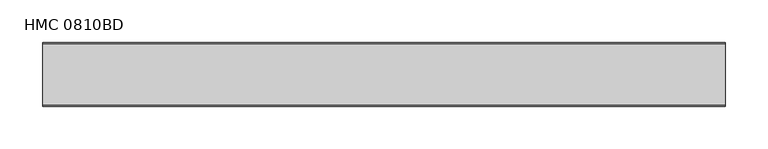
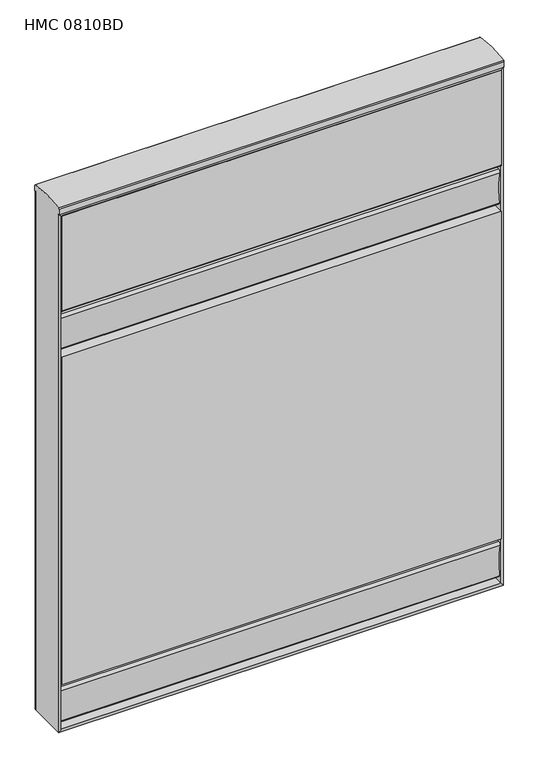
"""IFC4 building model written with IfcOpenShell, lengths in millimetres: furniture geometry, Mobiliário_MobiliáriodeEscritório_LinhaHabitat_PainelHabitatCego-MelaminaBasculante2Lado_Marelli : HMC 0810BD."""

from ifc_helpers import new_model, si_unit, point, frame, frame_2d, origin, place, context, project, spatial, polyline, circle_curve, ellipse_curve, trimmed, segment, composite_curve, outline, extrude, source, transform, mapped, element, save
from ifc_brep_helpers import plane_surface, cylinder_surface, advanced_brep


def hmc_0810bd_d5e68017(model_context):
    return source(origin(), model_context, "Body", "SolidModel", [
        extrude(outline(composite_curve([segment(polyline([(55.0, 90.0), (55.0, 80.0), (65.980067, 80.0)]), True, "CONTINUOUS"), segment(trimmed(circle_curve(frame_2d((65.980067, 75.980067)), 4.019933), [point((65.980067, 80.0))], [point((69.831007, 74.8267575))], False, "CARTESIAN"), True, "CONTINUOUS"), segment(trimmed(circle_curve(frame_2d((200.7096213, 43.9493843)), 134.4716471), [point((69.831007, 74.8267575))], [point((68.9861321, 16.9022723))], True, "CARTESIAN"), True, "CONTINUOUS"), segment(trimmed(circle_curve(frame_2d((67.0270055, 16.5)), 2.0), [point((68.9861321, 16.9022723))], [point((67.0270055, 14.5))], False, "CARTESIAN"), True, "CONTINUOUS"), segment(polyline([(67.0270055, 14.5), (55.0, 14.5), (55.0, 4.5), (20.0, 4.5), (20.0, 14.5), (7.9729945, 14.5)]), True, "CONTINUOUS"), segment(trimmed(circle_curve(frame_2d((7.9729945, 16.5)), 2.0), [point((7.9729945, 14.5))], [point((6.0138679, 16.9022723))], False, "CARTESIAN"), True, "CONTINUOUS"), segment(trimmed(circle_curve(frame_2d((-125.7096213, 43.9493843)), 134.4716471), [point((6.0138679, 16.9022723))], [point((5.168993, 74.8267575))], True, "CARTESIAN"), True, "CONTINUOUS"), segment(trimmed(circle_curve(frame_2d((9.019933, 75.980067)), 4.019933), [point((5.168993, 74.8267575))], [point((9.019933, 80.0))], False, "CARTESIAN"), True, "CONTINUOUS"), segment(polyline([(9.019933, 80.0), (20.0, 80.0), (20.0, 90.0), (55.0, 90.0)]), True, "CONTINUOUS")], self_intersect=False)), frame((4.5, 0.0, 0.0), z_axis=(1.0, 0.0, 0.0), x_axis=(0.0, 1.0, 0.0)), (0.0, 0.0, 1.0), 791.0),
        advanced_brep(
        [(0.0, 0.0, 984.4135569), (0.0, 0.0, 994.184829), (0.0, 1.4147018, 996.2946718), (0.0, 73.7415241, 996.2666026), (0.0, 75.0, 994.2721511), (0.0, 75.0, 984.4135569), (0.0, 72.75, 984.4135569), (0.0, 72.75, 0.0), (0.0, 2.25, 0.0), (0.0, 2.25, 984.4135569), (800.0, 75.0, 984.4135569), (800.0, 75.0, 994.2721511), (800.0, 73.7415241, 996.2666026), (800.0, 1.4147018, 996.2946718), (800.0, 0.0, 994.184829), (800.0, 0.0, 984.4135569), (800.0, 2.25, 984.4135569), (800.0, 2.25, 0.0), (800.0, 72.75, 0.0), (800.0, 72.75, 984.4135569), (4.5, 72.75, 4.5), (795.5, 72.75, 4.5), (795.5, 2.25, 4.5), (4.5, 2.25, 4.5), (795.5, 72.75, 979.9135569), (795.5, 2.25, 979.9135569), (4.5, 72.75, 979.9135569), (4.5, 2.25, 979.9135569)],
        [
            (0, 1),
            (1, 2, circle_curve(frame((0.0, 2.2806283, 994.184829), z_axis=(-1.0, 0.0, 0.0), x_axis=(0.0, 1.0, 0.0)), 2.2806283)),
            (2, 3, circle_curve(frame((0.0, 37.5106051, 822.3310283), z_axis=(-1.0, 0.0, 0.0), x_axis=(0.0, 1.0, 0.0)), 177.6689717)),
            (3, 4, circle_curve(frame((0.0, 72.7903437, 994.2721511), z_axis=(-1.0, 0.0, 0.0), x_axis=(0.0, 1.0, 0.0)), 2.2096563)),
            (4, 5),
            (5, 6),
            (6, 7),
            (7, 8),
            (8, 9),
            (9, 0),
            (10, 11),
            (11, 12, circle_curve(frame((800.0, 72.7903437, 994.2721511), z_axis=(1.0, 0.0, 0.0), x_axis=(0.0, 1.0, 0.0)), 2.2096563)),
            (12, 13, circle_curve(frame((800.0, 37.5106051, 822.3310283), z_axis=(1.0, 0.0, 0.0), x_axis=(0.0, 1.0, 0.0)), 177.6689717)),
            (13, 14, circle_curve(frame((800.0, 2.2806283, 994.184829), z_axis=(1.0, 0.0, 0.0), x_axis=(0.0, 1.0, 0.0)), 2.2806283)),
            (14, 15),
            (15, 16),
            (16, 17),
            (17, 18),
            (18, 19),
            (19, 10),
            (4, 11),
            (10, 5),
            (3, 12),
            (2, 13),
            (1, 14),
            (0, 15),
            (19, 6),
            (9, 16),
            (7, 20, ellipse_curve(frame((2.25, 72.75, 2.25), z_axis=(0.7071067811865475, 0.0, -0.7071067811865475), x_axis=(-0.7071067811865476, 0.0, -0.7071067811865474)), 3.1819805, 2.25)),
            (20, 21),
            (21, 18, ellipse_curve(frame((797.75, 72.75, 2.25), z_axis=(-0.7071067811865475, 0.0, -0.7071067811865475), x_axis=(-0.7071067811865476, 0.0, 0.7071067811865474)), 3.1819805, 2.25)),
            (18, 7),
            (17, 8),
            (17, 22, ellipse_curve(frame((797.75, 2.25, 2.25), z_axis=(-0.7071067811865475, 0.0, -0.7071067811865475), x_axis=(-0.7071067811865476, 0.0, 0.7071067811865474)), 3.1819805, 2.25)),
            (22, 23),
            (23, 8, ellipse_curve(frame((2.25, 2.25, 2.25), z_axis=(0.7071067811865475, 0.0, -0.7071067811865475), x_axis=(-0.7071067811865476, 0.0, -0.7071067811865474)), 3.1819805, 2.25)),
            (20, 23),
            (22, 21),
            (21, 24),
            (24, 19, ellipse_curve(frame((797.75, 72.75, 982.1635569), z_axis=(0.7071067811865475, 0.0, -0.7071067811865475), x_axis=(-0.7071067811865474, 0.0, -0.7071067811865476)), 3.1819805, 2.25)),
            (16, 25, ellipse_curve(frame((797.75, 2.25, 982.1635569), z_axis=(0.7071067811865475, 0.0, -0.7071067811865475), x_axis=(-0.7071067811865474, 0.0, -0.7071067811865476)), 3.1819805, 2.25)),
            (25, 22),
            (25, 24),
            (24, 26),
            (26, 6, ellipse_curve(frame((2.25, 72.75, 982.1635569), z_axis=(0.7071067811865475, 0.0, 0.7071067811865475), x_axis=(0.7071067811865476, 0.0, -0.7071067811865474)), 3.1819805, 2.25)),
            (9, 27, ellipse_curve(frame((2.25, 2.25, 982.1635569), z_axis=(0.7071067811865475, 0.0, 0.7071067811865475), x_axis=(0.7071067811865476, 0.0, -0.7071067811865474)), 3.1819805, 2.25)),
            (27, 25),
            (27, 26),
            (26, 20),
            (23, 27),
        ],
        [
            plane_surface(frame((0.0, 75.0, 994.2721511), z_axis=(-1.0, 0.0, 0.0), x_axis=(0.0, 0.0, -1.0))),
            plane_surface(frame((800.0, 75.0, 994.2721511), z_axis=(1.0, 0.0, 0.0), x_axis=(0.0, 0.0, 1.0))),
            plane_surface(frame((800.0, 75.0, 984.4135569), z_axis=(0.0, 1.0, 0.0), x_axis=(-1.0, 0.0, 0.0))),
            cylinder_surface(frame((0.0, 72.7903437, 994.2721511), z_axis=(1.0, 0.0, 0.0), x_axis=(0.0, 1.0, 0.0)), 2.2096563),
            cylinder_surface(frame((0.0, 37.5106051, 822.3310283), z_axis=(1.0, 0.0, 0.0), x_axis=(0.0, 1.0, 0.0)), 177.6689717),
            cylinder_surface(frame((0.0, 2.2806283, 994.184829), z_axis=(1.0, 0.0, 0.0), x_axis=(0.0, 1.0, 0.0)), 2.2806283),
            plane_surface(frame((800.0, 0.0, 994.184829), z_axis=(0.0, -1.0, 0.0), x_axis=(-1.0, 0.0, 0.0))),
            plane_surface(frame((800.0, 0.0, 984.4135569), z_axis=(0.0, 0.0, -1.0), x_axis=(-1.0, 0.0, 0.0))),
            cylinder_surface(frame((0.0, 72.75, 2.25), z_axis=(-1.0, 0.0, 0.0), x_axis=(0.0, -1.0, 0.0)), 2.25),
            plane_surface(frame((0.0, 72.75, 0.0), z_axis=(0.0, 0.0, -1.0), x_axis=(1.0, 0.0, 0.0))),
            cylinder_surface(frame((0.0, 2.25, 2.25), z_axis=(-1.0, 0.0, 0.0), x_axis=(0.0, -1.0, 0.0)), 2.25),
            plane_surface(frame((4.5, 2.25, 4.5), z_axis=(0.0, 0.0, 1.0), x_axis=(1.0, 0.0, 0.0))),
            cylinder_surface(frame((797.75, 72.75, 0.0), z_axis=(0.0, 0.0, -1.0), x_axis=(0.0, -1.0, 0.0)), 2.25),
            cylinder_surface(frame((797.75, 2.25, 0.0), z_axis=(0.0, 0.0, -1.0), x_axis=(0.0, -1.0, 0.0)), 2.25),
            plane_surface(frame((795.5, 2.25, 4.5), z_axis=(-1.0, 0.0, 0.0), x_axis=(0.0, 0.0, 1.0))),
            cylinder_surface(frame((800.0, 72.75, 982.1635569), z_axis=(1.0, 0.0, 0.0), x_axis=(0.0, -1.0, 0.0)), 2.25),
            cylinder_surface(frame((800.0, 2.25, 982.1635569), z_axis=(1.0, 0.0, 0.0), x_axis=(0.0, -1.0, 0.0)), 2.25),
            plane_surface(frame((795.5, 2.25, 979.9135569), z_axis=(0.0, 0.0, -1.0), x_axis=(-1.0, 0.0, 0.0))),
            cylinder_surface(frame((2.25, 72.75, 984.4135569), z_axis=(0.0, 0.0, 1.0), x_axis=(0.0, -1.0, 0.0)), 2.25),
            cylinder_surface(frame((2.25, 2.25, 984.4135569), z_axis=(0.0, 0.0, 1.0), x_axis=(0.0, -1.0, 0.0)), 2.25),
            plane_surface(frame((4.5, 2.25, 979.9135569), z_axis=(1.0, 0.0, 0.0), x_axis=(0.0, 0.0, -1.0))),
        ],
        [
            (0, [[1, 2, 3, 4, 5, 6, 7, 8, 9, 10]]),
            (1, [[11, 12, 13, 14, 15, 16, 17, 18, 19, 20]]),
            (2, [[-5, 21, -11, 22]]),
            (3, [[-4, 23, -12, -21]]),
            (4, [[-3, 24, -13, -23]]),
            (5, [[-2, 25, -14, -24]]),
            (6, [[-1, 26, -15, -25]]),
            (7, [[-22, -20, 27, -6]]),
            (7, [[-26, -10, 28, -16]]),
            (8, [[29, 30, 31, 32]]),
            (9, [[-32, -18, 33, -8]]),
            (10, [[-33, 34, 35, 36]]),
            (11, [[-30, 37, -35, 38]]),
            (12, [[-31, 39, 40, -19]]),
            (13, [[-34, -17, 41, 42]]),
            (14, [[-38, -42, 43, -39]]),
            (15, [[-40, 44, 45, -27]]),
            (16, [[-41, -28, 46, 47]]),
            (17, [[-43, -47, 48, -44]]),
            (18, [[-29, -7, -45, 49]]),
            (19, [[-36, 50, -46, -9]]),
            (20, [[-37, -49, -48, -50]]),
        ],
    ),
        extrude(outline(composite_curve([segment(polyline([(72.75, 797.5), (2.25, 797.5)]), True, "CONTINUOUS"), segment(trimmed(circle_curve(frame_2d((2.25, 799.75)), 2.25), [point((2.25, 797.5))], [point((0.0, 799.75))], False, "CARTESIAN"), True, "CONTINUOUS"), segment(polyline([(0.0, 799.75), (0.0, 979.9135569), (75.0, 979.9135569), (75.0, 799.75)]), True, "CONTINUOUS"), segment(trimmed(circle_curve(frame_2d((72.75, 799.75)), 2.25), [point((75.0, 799.75))], [point((72.75, 797.5))], False, "CARTESIAN"), True, "CONTINUOUS")], self_intersect=False)), frame((4.5, 0.0, 0.0), z_axis=(1.0, 0.0, 0.0), x_axis=(0.0, 1.0, 0.0)), (0.0, 0.0, 1.0), 791.0),
        extrude(outline(composite_curve([segment(polyline([(55.0, 797.5), (55.0, 787.5), (65.980067, 787.5)]), True, "CONTINUOUS"), segment(trimmed(circle_curve(frame_2d((65.980067, 783.480067)), 4.019933), [point((65.980067, 787.5))], [point((69.831007, 782.3267575))], False, "CARTESIAN"), True, "CONTINUOUS"), segment(trimmed(circle_curve(frame_2d((200.7096213, 751.4493843)), 134.4716471), [point((69.831007, 782.3267575))], [point((68.9861321, 724.4022723))], True, "CARTESIAN"), True, "CONTINUOUS"), segment(trimmed(circle_curve(frame_2d((67.0270055, 724.0)), 2.0), [point((68.9861321, 724.4022723))], [point((67.0270055, 722.0))], False, "CARTESIAN"), True, "CONTINUOUS"), segment(polyline([(67.0270055, 722.0), (55.0, 722.0), (55.0, 712.0), (20.0, 712.0), (20.0, 722.0), (7.9729945, 722.0)]), True, "CONTINUOUS"), segment(trimmed(circle_curve(frame_2d((7.9729945, 724.0)), 2.0), [point((7.9729945, 722.0))], [point((6.0138679, 724.4022723))], False, "CARTESIAN"), True, "CONTINUOUS"), segment(trimmed(circle_curve(frame_2d((-125.7096213, 751.4493843)), 134.4716471), [point((6.0138679, 724.4022723))], [point((5.168993, 782.3267575))], True, "CARTESIAN"), True, "CONTINUOUS"), segment(trimmed(circle_curve(frame_2d((9.019933, 783.480067)), 4.019933), [point((5.168993, 782.3267575))], [point((9.019933, 787.5))], False, "CARTESIAN"), True, "CONTINUOUS"), segment(polyline([(9.019933, 787.5), (20.0, 787.5), (20.0, 797.5), (55.0, 797.5)]), True, "CONTINUOUS")], self_intersect=False)), frame((4.5, 0.0, 0.0), z_axis=(1.0, 0.0, 0.0), x_axis=(0.0, 1.0, 0.0)), (0.0, 0.0, 1.0), 791.0),
        extrude(outline(polyline([(795.5, 75.0), (795.5, 0.0), (4.5, 0.0), (4.5, 75.0), (795.5, 75.0)])), frame((0.0, 0.0, 90.0), z_axis=(0.0, 0.0, 1.0), x_axis=(1.0, 0.0, 0.0)), (0.0, 0.0, 1.0), 622.0),
    ])


if __name__ == "__main__":
    model = new_model("IFC4")
    model_context = context("Model", 3, world=origin())
    ifc_project = project(units=[si_unit("LENGTHUNIT", "METRE", prefix="MILLI")], contexts=[model_context])
    site = spatial("IfcSite", under=ifc_project)
    building = spatial("IfcBuilding", under=site)
    placement = place(None, origin())
    hmc_0810bd_shape = hmc_0810bd_d5e68017(model_context)
    element("IfcFurniture", 1, ObjectType="Mobiliário_MobiliáriodeEscritório_LinhaHabitat_PainelHabitatCego-MelaminaBasculante2Lado_Marelli : HMC 0810BD", at=placement, inside=building, context=model_context, shape_type="MappedRepresentation", body=[
        mapped(hmc_0810bd_shape, transform((0.0, 0.0, 0.0), x_axis=(1.0, 0.0, 0.0), y_axis=(0.0, 1.0, 0.0), z_axis=(0.0, 0.0, 1.0))),
    ])
    save(model, "model.ifc")
